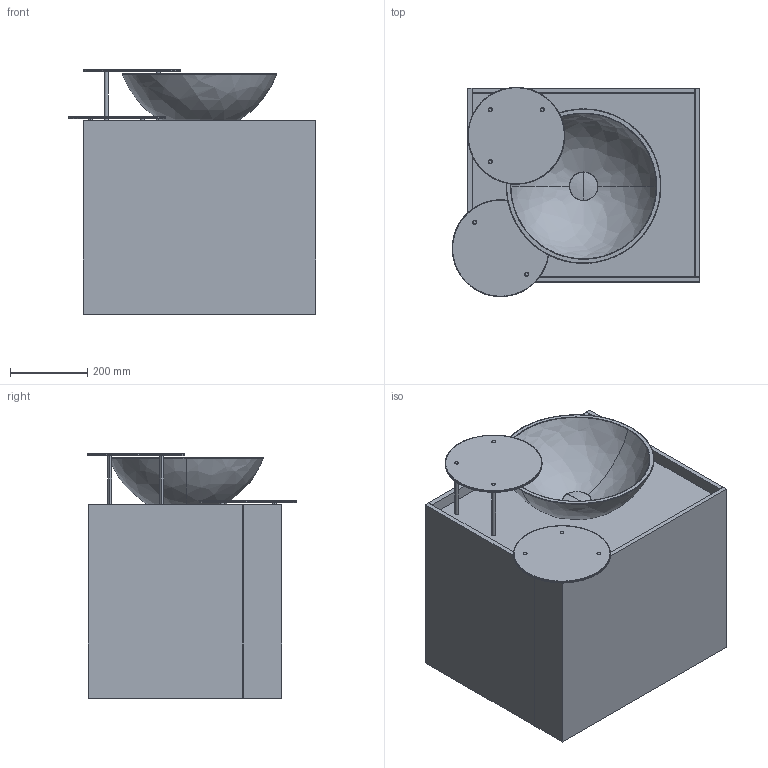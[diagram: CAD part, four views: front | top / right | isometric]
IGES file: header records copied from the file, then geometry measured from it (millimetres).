
Start section: SolidWorks IGES file using analytic representation for surfaces
Global section: file name: C:\DOCUMENTI_UT\030_PRODUZIONE MAKRO\SW\MOBILI_LAVABO\TENDER\Makro_Tender 600.IGS; native system: SolidWorks 2012; preprocessor: SolidWorks 2012; author: TECNICO; date: 160526.151027; units: millimetre
Bounding box: 639.2 x 540.31 x 631 mm (x, y, z)
Surface area: 4492590.6 mm2 (no closed solid volume)
Topology: 0 solids, 0 shells, 220 faces, 3506 edges, 3504 vertices
Faces by surface type: bspline 145, revolution 75
